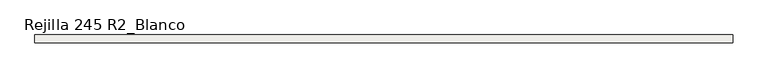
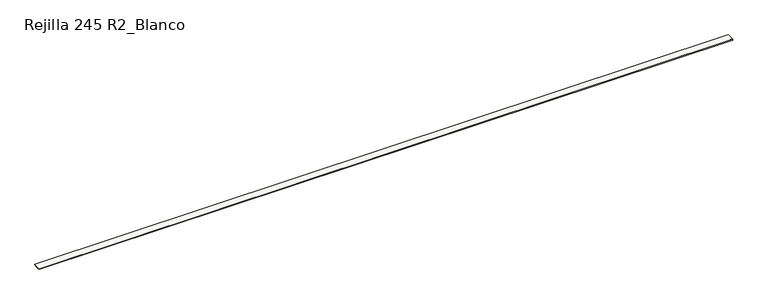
"""IFC4 building model written with IfcOpenShell, lengths in millimetres: slab geometry, ROSA GRES_245 R2_Blanco : Rejilla 245 R2_Blanco."""

from ifc_helpers import new_model, si_unit, frame, origin, place, context, project, spatial, polyline, outline, extrude, source, transform, mapped, element, save


def rejilla_245_r2_blanco_6d734e5a(model_context):
    return source(origin(), model_context, "Body", "SweptSolid", [
        extrude(outline(polyline([(-369.5908797, 206.3460936), (-411.8675475, 206.3460936), (-422.8675475, 195.3460936), (-561.3142119, 195.3460936), (-572.3142119, 206.3460936), (-614.5908797, 206.3460936), (-614.5908797, 228.3460936), (-369.5908797, 228.3460936), (-369.5908797, 206.3460936)])), frame((0.0, 0.0, 0.0), z_axis=(1.0, 0.0, 0.0), x_axis=(0.0, 1.0, 0.0)), (0.0, 0.0, 1.0), 21639.1817594),
    ])


if __name__ == "__main__":
    model = new_model("IFC4")
    model_context = context("Model", 3, world=origin())
    ifc_project = project(units=[si_unit("LENGTHUNIT", "METRE", prefix="MILLI")], contexts=[model_context])
    site = spatial("IfcSite", under=ifc_project)
    building = spatial("IfcBuilding", under=site)
    placement = place(None, origin())
    rejilla_245_r2_blanco_shape = rejilla_245_r2_blanco_6d734e5a(model_context)
    element("IfcSlab", 1, ObjectType="ROSA GRES_245 R2_Blanco : Rejilla 245 R2_Blanco", at=placement, inside=building, context=model_context, shape_type="MappedRepresentation", body=[
        mapped(rejilla_245_r2_blanco_shape, transform((0.0, 0.0, 0.0), x_axis=(1.0, 0.0, 0.0), y_axis=(0.0, 1.0, 0.0), z_axis=(0.0, 0.0, 1.0))),
    ])
    save(model, "model.ifc")
